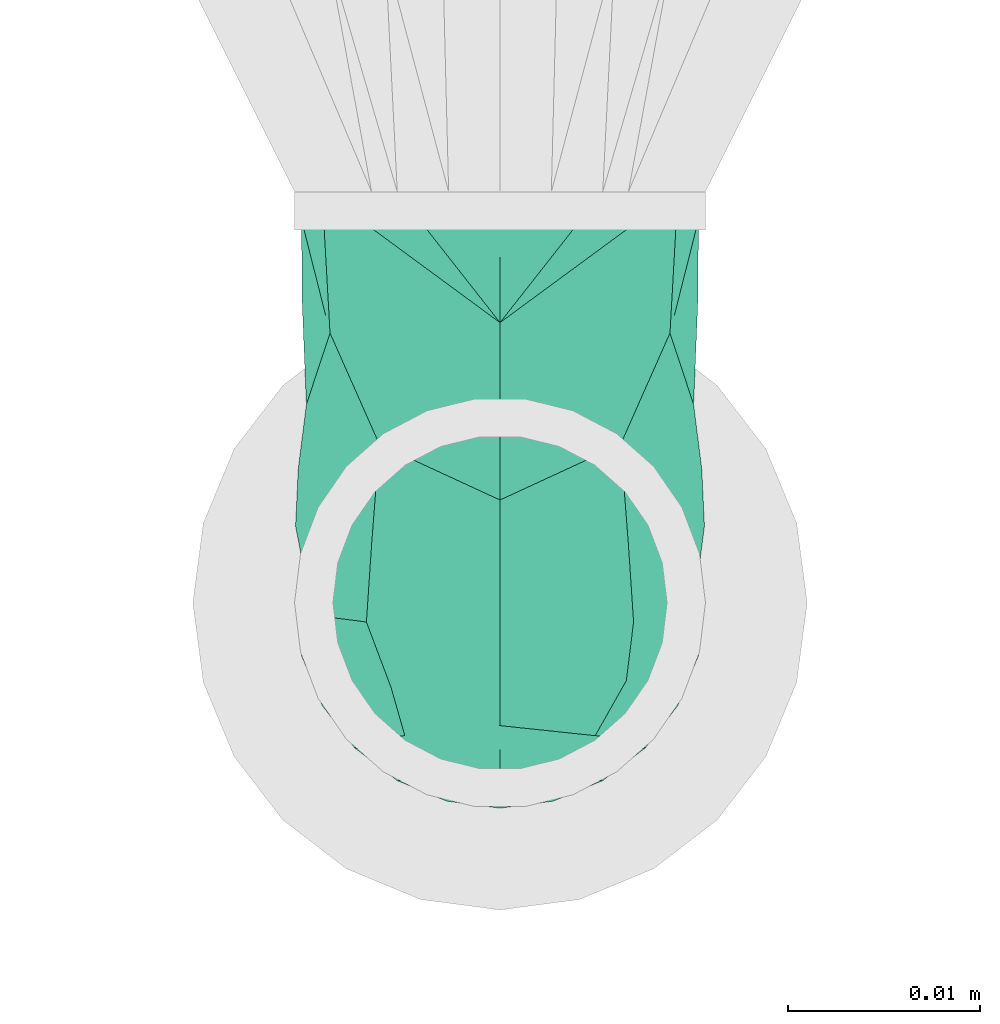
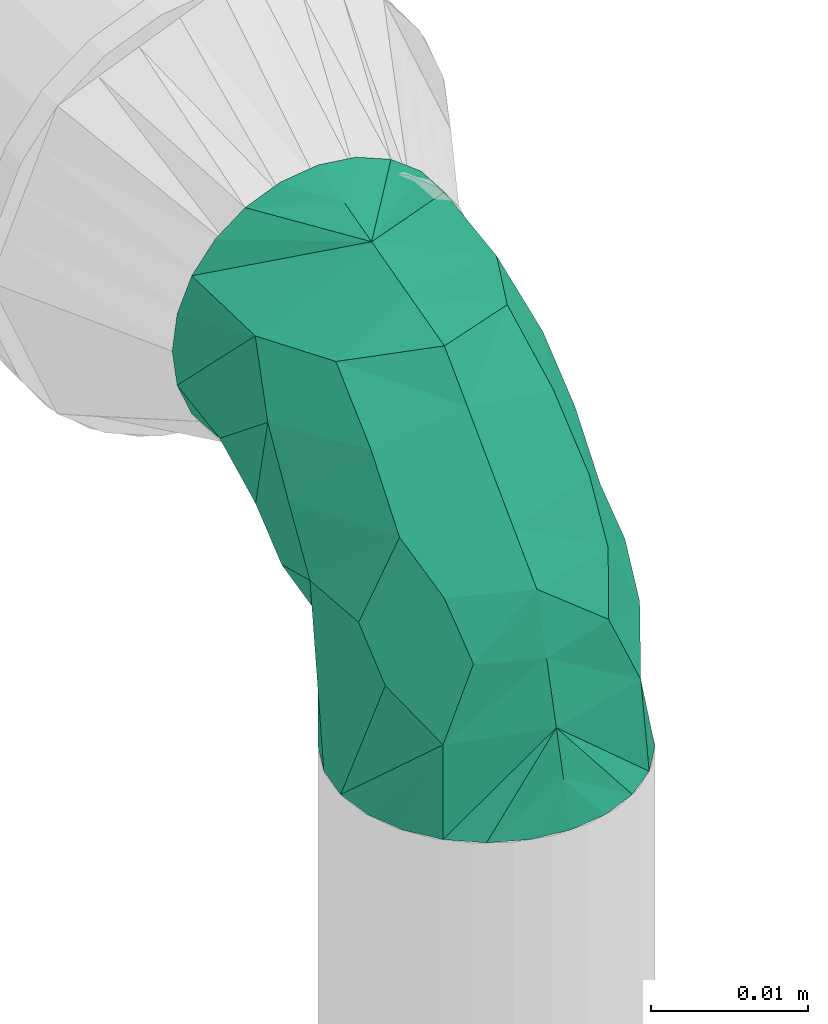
# One storey, part 51 of 51: 1 flow fitting.
"""IFC2X3 building model written with IfcOpenShell, lengths in millimetres."""

from ifc_helpers import new_model, entity, si_unit, converted_unit, derived_unit, direction, frame, origin_with_axes, place, context, subcontext, project, spatial, open_shell, surface_model, source, transform, mapped, type_object, element, save


model = new_model("IFC2X3")

# Units and contexts
model_context = context("Model", 3, precision=0.01, world=frame((0.0, 4.29681676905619e-09, 0.0)), true_north=direction((4.01073788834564e-13, 1.0)))
plan_context = context("Plan", 3, precision=0.01, world=frame((0.0, 4.29681676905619e-09, 0.0)), true_north=direction((4.01073788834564e-13, 1.0)))
body_context = subcontext(model_context, "Body", "Model", "MODEL_VIEW")
ifc_project = project(units=[converted_unit("PLANEANGLEUNIT", "DEGREE", entity("IfcPositiveLengthMeasure", 0.0174532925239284), si_unit("PLANEANGLEUNIT", "RADIAN"), dimensions=[0, 0, 0, 0, 0, 0, 0]), si_unit("AREAUNIT", "SQUARE_METRE"), si_unit("LENGTHUNIT", "METRE", prefix="MILLI"), si_unit("MASSUNIT", "GRAM", prefix="KILO"), si_unit("POWERUNIT", "WATT"), si_unit("PRESSUREUNIT", "PASCAL"), si_unit("FORCEUNIT", "NEWTON", prefix="KILO"), si_unit("ELECTRICVOLTAGEUNIT", "VOLT"), si_unit("ELECTRICCURRENTUNIT", "AMPERE"), si_unit("THERMODYNAMICTEMPERATUREUNIT", "DEGREE_CELSIUS"), si_unit("TIMEUNIT", "SECOND"), si_unit("VOLUMEUNIT", "CUBIC_METRE"), derived_unit("LINEARVELOCITYUNIT", [(si_unit("LENGTHUNIT", "METRE"), 1), (si_unit("TIMEUNIT", "SECOND"), -1)]), derived_unit("VOLUMETRICFLOWRATEUNIT", [(si_unit("VOLUMEUNIT", "CUBIC_METRE"), 1), (si_unit("TIMEUNIT", "SECOND"), -1)]), derived_unit("THERMALTRANSMITTANCEUNIT", [(si_unit("POWERUNIT", "WATT"), 1), (si_unit("THERMODYNAMICTEMPERATUREUNIT", "KELVIN"), -1), (si_unit("AREAUNIT", "SQUARE_METRE"), -1)]), derived_unit("SOUNDPRESSUREUNIT", [(si_unit("PRESSUREUNIT", "PASCAL"), 1)])], contexts=[model_context, plan_context])

# Site, building, storey
site_placement = place(None, frame((0.0, -4.29681676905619e-09, 0.0), z_axis=(0.0, 0.0, 1.0), x_axis=(1.0, 0.0, 0.0)))
site = spatial("IfcSite", under=ifc_project, at=site_placement, Name="ENGM", CompositionType="ELEMENT")
building_placement = place(site_placement, frame((0.0, 4.29681676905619e-09, 0.0), z_axis=(0.0, 0.0, 1.0), x_axis=(1.0, 0.0, 0.0)))
building = spatial("IfcBuilding", under=site, at=building_placement, Name="TH", CompositionType="ELEMENT")
storey_placement = place(building_placement, frame((0.0, 0.0, 210200.0), z_axis=(0.0, 0.0, 1.0), x_axis=(1.0, 0.0, 0.0)))
storey = spatial("IfcBuildingStorey", under=building, at=storey_placement, Name="Nivå F - 0,7 m", CompositionType="ELEMENT", Elevation=210200.0)

# Flow fitting
pipe_fitting_type = type_object("IfcPipeFittingType", Name="magi_pipe_fe_elbow_short_001", PredefinedType="BEND")
shared_shape = source(origin_with_axes(), body_context, "Body", "SurfaceModel", [
    surface_model("IfcShellBasedSurfaceModel", [(-21.40184, 0.0, -10.7), (-21.40184, -7.56604, -7.56604), (-21.40184, 2.76936, -10.33541), (-21.40184, 5.35, -9.26647), (-21.40184, 7.56604, -7.56604), (-21.40184, 10.33541, -2.76936), (-21.40184, 9.26647, -5.35), (-21.40184, -10.7, 0.0), (-21.40184, -5.35, -9.26647), (-21.40184, -2.76936, -10.33541), (-21.40184, -10.33541, -2.76936), (-21.40184, -9.26647, -5.35), (-21.40184, 10.7, 0.0), (-21.40184, 10.33541, 2.76936), (-21.40184, -5.35, 9.26647), (-21.40184, 9.26647, 5.35), (-21.40184, 2.76936, 10.33541), (-21.40184, 5.35, 9.26647), (-21.40184, 7.56604, 7.56604), (-21.40184, -7.56604, 7.56604), (-21.40184, -9.26647, 5.35), (-21.40184, -10.33541, 2.76936), (-21.40184, -2.76936, 10.33541), (-21.40184, 0.0, 10.7), (-2.7712, 21.4016, -10.33541), (7.5642, 21.40249, -7.56604), (-0.00184, 21.40184, -10.7), (-7.56788, 21.40119, -7.56604), (-5.35184, 21.40138, -9.26647), (-9.26831, 21.40104, -5.35), (-10.33725, 21.40095, -2.76936), (-10.33725, 21.40095, 2.76936), (2.76752, 21.40208, -10.33541), (5.34816, 21.4023, -9.26647), (9.26463, 21.40264, -5.35), (10.69816, 21.40276, 0.0), (10.33357, 21.40273, -2.76936), (9.26463, 21.40264, 5.35), (5.34816, 21.4023, 9.26647), (-2.7712, 21.4016, 10.33541), (-9.26831, 21.40104, 5.35), (-7.56788, 21.40119, 7.56604), (-5.35184, 21.40138, 9.26647), (-0.00184, 21.40184, 10.7), (7.5642, 21.40249, 7.56604), (10.33357, 21.40273, 2.76936), (2.76752, 21.40208, 10.33541), (-10.70184, 21.40092, 0.0), (-17.99594, -9.78734, 0.0), (-9.97054, -7.63682, 0.0), (-9.09522, -6.92415, 4.9576), (-14.48854, -7.04158, 7.24964), (5.62994, 8.25102, 6.28425), (2.06215, 3.10005, 6.68278), (3.46111, 2.41396, 0.0), (0.98495, 10.32297, 10.08427), (-14.59004, -8.87468, 0.0), (5.00253, 14.04919, 8.8537), (-11.43383, -3.30059, 9.33132), (7.63596, 9.9712, 0.0), (8.87343, 14.59081, 0.0), (-7.84129, 13.84304, 8.94222), (-3.62829, 16.03124, 10.31806), (-15.33614, 3.33464, 10.44021), (-7.9942, -0.64444, 9.75274), (-12.26866, 17.6176, 0.0), (-13.83547, 13.83428, 0.0), (-5.23031, -4.43168, 5.66692), (6.39849, 5.35159, 0.0), (-15.15595, 10.16037, 6.44456), (-10.16544, 10.01442, 9.23538), (9.78579, 17.99678, 0.0), (-7.2301, 3.98863, 10.64837), (-2.16353, -1.00202, 6.95766), (0.52373, -0.52368, 0.0), (-2.94292, 6.97981, 10.50687), (-17.61866, 12.26714, 0.0), (-2.41366, -3.46132, 0.0), (-5.35104, -6.39896, 0.0), (-8.83702, -0.07369, -10.11842), (-2.16353, -1.00202, -6.95766), (-5.84099, -4.06078, -6.57769), (-7.84129, 13.84304, -8.94222), (-15.33614, 3.33464, -10.44021), (-11.43383, -3.30059, -9.33132), (-15.15595, 10.16037, -6.44456), (-7.2301, 3.98863, -10.64837), (-10.16544, 10.01442, -9.23538), (2.06215, 3.10005, -6.68278), (-2.94292, 6.97981, -10.50687), (-14.48854, -7.04158, -7.24964), (5.00253, 14.04919, -8.8537), (-3.62829, 16.03124, -10.31806), (0.98495, 10.32297, -10.08427), (5.62994, 8.25102, -6.28425), (-9.09522, -6.92415, -4.9576)], [open_shell([[[0, 1, 2]], [[3, 2, 4]], [[5, 6, 4]], [[2, 5, 4]], [[5, 2, 7]], [[8, 1, 9]], [[1, 0, 9]], [[10, 7, 11]], [[1, 11, 7]], [[1, 7, 2]], [[7, 12, 5]], [[13, 7, 14]], [[15, 13, 16]], [[16, 17, 18]], [[15, 16, 18]], [[16, 13, 14]], [[19, 14, 20]], [[20, 7, 21]], [[22, 23, 14]], [[14, 7, 20]], [[16, 14, 23]], [[7, 13, 12]], [[24, 25, 26]], [[27, 24, 28]], [[27, 29, 30]], [[24, 27, 31]], [[31, 25, 24]], [[32, 25, 33]], [[32, 26, 25]], [[34, 35, 36]], [[35, 34, 25]], [[25, 37, 35]], [[30, 31, 27]], [[25, 31, 38]], [[39, 31, 40]], [[41, 42, 39]], [[41, 39, 40]], [[43, 31, 39]], [[37, 38, 44]], [[45, 35, 37]], [[38, 43, 46]], [[37, 25, 38]], [[43, 38, 31]], [[30, 47, 31]], [[20, 21, 48]], [[49, 50, 51]], [[52, 53, 54]], [[52, 55, 53]], [[51, 19, 56]], [[19, 20, 56]], [[39, 57, 43]], [[23, 51, 58]], [[51, 22, 14]], [[57, 59, 60]], [[61, 55, 62]], [[63, 58, 64]], [[65, 66, 61]], [[51, 23, 22]], [[23, 58, 16]], [[67, 58, 50]], [[54, 68, 52]], [[63, 18, 17]], [[21, 7, 48]], [[12, 13, 69]], [[15, 18, 63]], [[62, 42, 41]], [[16, 58, 63]], [[15, 69, 13]], [[63, 17, 16]], [[59, 52, 68]], [[60, 44, 38]], [[57, 46, 43]], [[69, 70, 66]], [[52, 59, 57]], [[40, 62, 41]], [[60, 37, 44]], [[38, 57, 60]], [[38, 46, 57]], [[19, 51, 14]], [[45, 71, 35]], [[51, 56, 49]], [[70, 69, 72]], [[73, 74, 53]], [[75, 72, 73]], [[15, 63, 69]], [[47, 65, 31]], [[37, 71, 45]], [[55, 57, 62]], [[52, 57, 55]], [[39, 42, 62]], [[60, 71, 37]], [[31, 61, 40]], [[48, 56, 20]], [[61, 62, 40]], [[62, 57, 39]], [[69, 63, 72]], [[53, 75, 73]], [[69, 66, 76]], [[67, 64, 58]], [[75, 53, 55]], [[67, 77, 73]], [[55, 61, 75]], [[70, 75, 61]], [[50, 49, 78]], [[67, 50, 78]], [[51, 50, 58]], [[77, 74, 73]], [[73, 72, 64]], [[67, 78, 77]], [[73, 64, 67]], [[63, 64, 72]], [[31, 65, 61]], [[75, 70, 72]], [[12, 69, 76]], [[66, 70, 61]], [[53, 74, 54]], [[79, 80, 81]], [[65, 30, 82]], [[3, 4, 83]], [[2, 84, 0]], [[5, 12, 85]], [[11, 48, 10]], [[83, 6, 85]], [[85, 6, 5]], [[86, 85, 87]], [[83, 86, 79]], [[83, 84, 2]], [[48, 7, 10]], [[80, 77, 81]], [[88, 80, 89]], [[11, 1, 56]], [[8, 9, 90]], [[91, 33, 60]], [[1, 8, 90]], [[90, 9, 0]], [[84, 90, 0]], [[1, 90, 56]], [[29, 92, 82]], [[6, 83, 4]], [[85, 12, 76]], [[80, 88, 74]], [[82, 66, 65]], [[93, 82, 92]], [[29, 82, 30]], [[29, 27, 92]], [[27, 28, 92]], [[71, 60, 34]], [[91, 92, 24]], [[56, 48, 11]], [[36, 35, 71]], [[28, 24, 92]], [[94, 88, 93]], [[26, 91, 24]], [[33, 91, 32]], [[83, 2, 3]], [[94, 93, 91]], [[25, 60, 33]], [[89, 93, 88]], [[32, 91, 26]], [[71, 34, 36]], [[92, 91, 93]], [[59, 91, 60]], [[86, 83, 85]], [[95, 78, 49]], [[25, 34, 60]], [[66, 87, 85]], [[94, 59, 68]], [[89, 80, 86]], [[49, 56, 90]], [[94, 54, 88]], [[59, 94, 91]], [[95, 90, 84]], [[87, 89, 86]], [[82, 93, 89]], [[81, 78, 95]], [[90, 95, 49]], [[81, 95, 84]], [[79, 81, 84]], [[82, 87, 66]], [[83, 79, 84]], [[80, 79, 86]], [[77, 80, 74]], [[77, 78, 81]], [[47, 30, 65]], [[76, 66, 85]], [[89, 87, 82]], [[54, 94, 68]], [[54, 74, 88]]])]),
])
flow_fitting_placement = place(storey_placement, frame((909100.0, 485825.40642, 2949.60000000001), z_axis=(-1.0, 0.0, 0.0), x_axis=(0.0, 0.0, 1.0)))
element("IfcFlowFitting", 1, at=flow_fitting_placement, inside=storey, type_object=pipe_fitting_type, Name="magi_pipe_fe_elbow_short_001", context=body_context, shape_type="MappedRepresentation", body=[
    mapped(shared_shape, transform((0.0, 0.0, 0.0), scale=1.0)),
])

save(model, "model.ifc")
